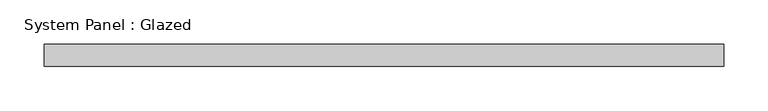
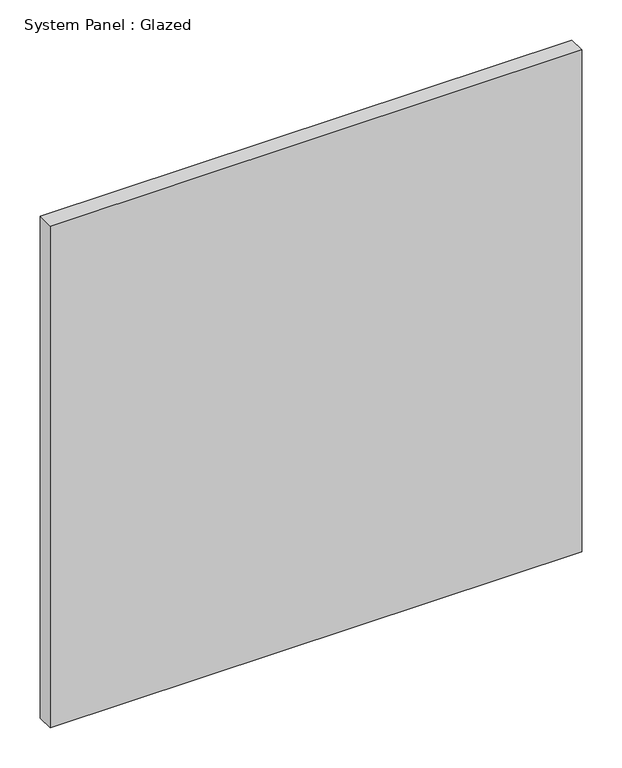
"""IFC4 building model written with IfcOpenShell, lengths in millimetres: plate geometry, System Panel : Glazed."""

from ifc_helpers import new_model, si_unit, origin, origin_with_axes, place, context, project, spatial, polyline, outline, extrude, source, transform, mapped, element, save


def system_panel_glazed_e302ad19(model_context):
    return source(origin(), model_context, "Body", "SweptSolid", [
        extrude(outline(polyline([(383.1424493, 24.5), (-383.1424493, 24.5), (-383.1424493, 49.5), (383.1424493, 49.5), (383.1424493, 24.5)])), origin_with_axes(), (0.0, 0.0, 1.0), 765.0),
    ])


if __name__ == "__main__":
    model = new_model("IFC4")
    model_context = context("Model", 3, world=origin())
    ifc_project = project(units=[si_unit("LENGTHUNIT", "METRE", prefix="MILLI")], contexts=[model_context])
    site = spatial("IfcSite", under=ifc_project)
    building = spatial("IfcBuilding", under=site)
    placement = place(None, origin())
    system_panel_glazed_shape = system_panel_glazed_e302ad19(model_context)
    element("IfcPlate", 1, ObjectType="System Panel : Glazed", at=placement, inside=building, context=model_context, shape_type="MappedRepresentation", body=[
        mapped(system_panel_glazed_shape, transform((0.0, 0.0, 0.0), x_axis=(1.0, 0.0, 0.0), y_axis=(0.0, 1.0, 0.0), z_axis=(0.0, 0.0, 1.0))),
    ])
    save(model, "model.ifc")
